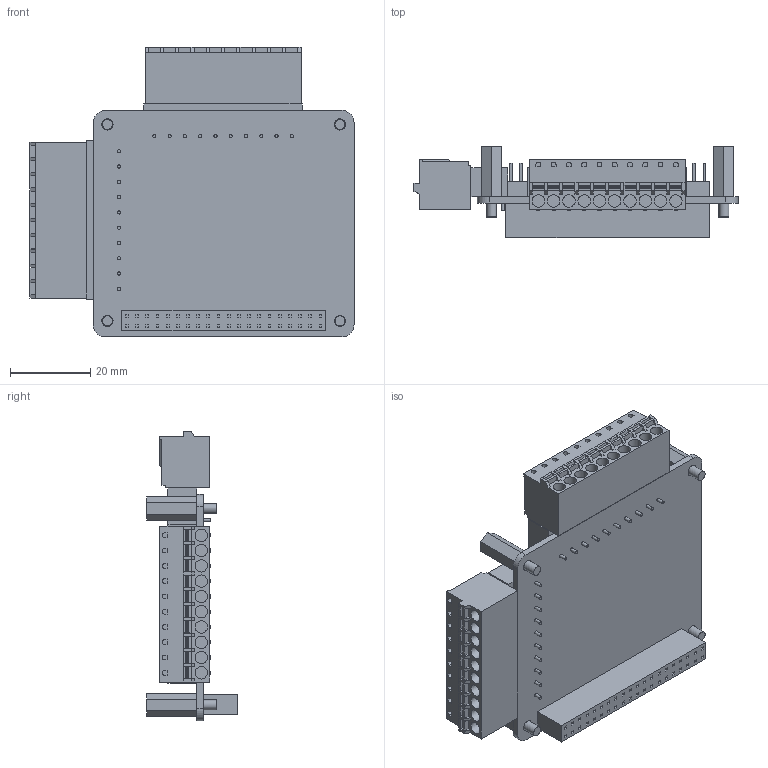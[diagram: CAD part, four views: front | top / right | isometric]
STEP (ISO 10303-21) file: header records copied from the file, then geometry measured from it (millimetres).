
FILE_DESCRIPTION(/* description */ (''),/* implementation_level */ '2;1');
FILE_NAME(/* name */ 'Z:\00-800-Board-Product\Raspberry Pi 4 拡張基板\900_公開用3Dデータ\CPI-DIO-0808RL\CPI-DIO-0808RL.stp',/* time_stamp */ '2025-05-20T08:40:12+09:00',/* author */ ('880624'),/* organization */ (''),/* preprocessor_version */ 'ST-DEVELOPER v19',/* originating_system */ 'Autodesk Inventor 2023',/* authorisation */ '');
FILE_SCHEMA (('AUTOMOTIVE_DESIGN { 1 0 10303 214 3 1 1 }'));
Length unit declared in the file: millimetre
Products named in the file (5): CPI-DIO-0808RL; CPI-DIO-0808RL_FABRICATION; 2185DN0-220Sxxxxxxx; 15EDGKD-3.81-10P-13; BS-2512.5E
Assembly tree (8 placements, depth 2):
  CPI-DIO-0808RL
    CPI-DIO-0808RL_FABRICATION
    2185DN0-220Sxxxxxxx
    15EDGKD-3.81-10P-13  x2
    BS-2512.5E  x4
Bounding box: 80.8 x 22.6 x 72.3 mm (x, y, z)
Volume: 24581.5 mm3; surface area: 28555.8 mm2
Topology: 8 solids, 8 shells, 2117 faces, 5316 edges, 3500 vertices
Faces by surface type: plane 1953, cylinder 156, cone 8
Full cylindrical faces by diameter (mm): 0.8 x40, 1 x40, 1.6 x20, 2.013 x4, 2.5 x4, 2.8 x4, 3.1 x20
Entity records: 49427 total; most frequent: CARTESIAN_POINT 8484, ORIENTED_EDGE 8230, DIRECTION 7650, EDGE_CURVE 4115, LINE 3874, VECTOR 3874, VERTEX_POINT 2722, EDGE_LOOP 1955
